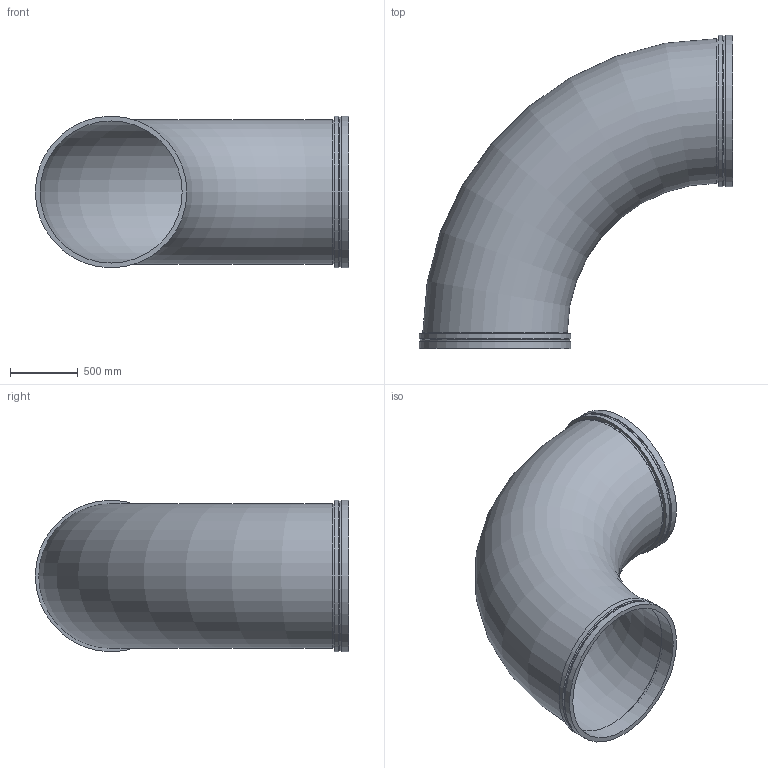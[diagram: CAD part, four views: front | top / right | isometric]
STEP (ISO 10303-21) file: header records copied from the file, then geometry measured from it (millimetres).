
FILE_DESCRIPTION(/* description */ ('VIC 90 DEG ELBOW No W100 VR','CAx-IF Rec.Pracs.---Representation and Presentation of Product Manufacturing Information (PMI)---4.0---2014-10-13'),/* implementation_level */ '2;1');
FILE_NAME(/* name */ 'C:\Users\kkamble\AppData\Roaming\Autodesk\ApplicationPlugins\Back Up\Victaulic_Vic-Ring_Elbow 90 Deg LR_No W100 VR (AGR)\Victaulic_Vic-Ring_Elbow 90 Deg LR_No W100 VR (AGR)_42 (1050).stp',/* time_stamp */ '2020-09-10T11:44:28+05:00',/* author */ ('cps_temp'),/* organization */ ('Victaulic'),/* preprocessor_version */ 'ST-DEVELOPER v17.2',/* originating_system */ 'Autodesk Inventor 2019',/* authorisation */ '');
FILE_SCHEMA (('AP242_MANAGED_MODEL_BASED_3D_ENGINEERING_MIM_LF { 1 0 10303 442 1 1 4 }'));
Length unit declared in the file: inch
Products named in the file (1): W100 VR-42.0
Bounding box: 2311.4 x 2311.4 x 1117.6 mm (x, y, z)
Volume: 106577511.1 mm3; surface area: 19157919.6 mm2
Topology: 1 solids, 1 shells, 20 faces, 51 edges, 37 vertices
Faces by surface type: cylinder 10, plane 6, cone 2, torus 2
Full cylindrical faces by diameter (mm): 1047.75 x2, 1066.8 x2, 1101.725 x2, 1117.6 x4
Entity records: 802 total; most frequent: DIRECTION 158, CARTESIAN_POINT 126, ORIENTED_EDGE 102, AXIS2_PLACEMENT_3D 73, EDGE_CURVE 51, CIRCLE 39, VERTEX_POINT 37, EDGE_LOOP 26
